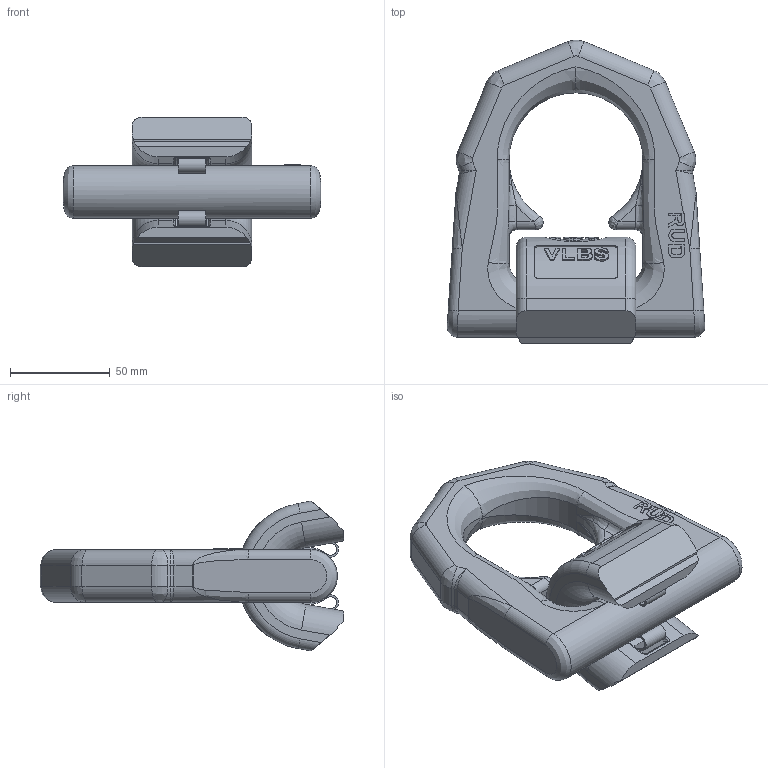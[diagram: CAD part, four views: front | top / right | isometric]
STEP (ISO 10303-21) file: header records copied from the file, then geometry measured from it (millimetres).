
FILE_DESCRIPTION((''),'2;1');
FILE_NAME('001-M32121-P5_ASM','2017-10-18T',('anja.joas'),(''),'PRO/ENGINEER BY PARAMETRIC TECHNOLOGY CORPORATION, 2011490','PRO/ENGINEER BY PARAMETRIC TECHNOLOGY CORPORATION, 2011490','');
FILE_SCHEMA(('CONFIG_CONTROL_DESIGN'));
Length unit declared in the file: millimetre
Products named in the file (4): 001-M32121-P6; 001-M34887-P01; 001-M31417-P-1; 001-M32121-P5_ASM
Assembly tree (3 placements, depth 2):
  001-M32121-P5_ASM
    001-M32121-P6
    001-M34887-P01
    001-M31417-P-1
Bounding box: 129.17 x 152.22 x 75 mm (x, y, z)
Volume: 368824.2 mm3; surface area: 60556.3 mm2
Topology: 3 solids, 3 shells, 553 faces, 1450 edges, 924 vertices
Faces by surface type: plane 280, cylinder 120, extrusion 73, bspline 60, torus 16, sphere 4
Entity records: 35193 total; most frequent: CARTESIAN_POINT 22260, ORIENTED_EDGE 2900, DIRECTION 2275, EDGE_CURVE 1450, VERTEX_POINT 924, VECTOR 859, LINE 786, AXIS2_PLACEMENT_3D 708
